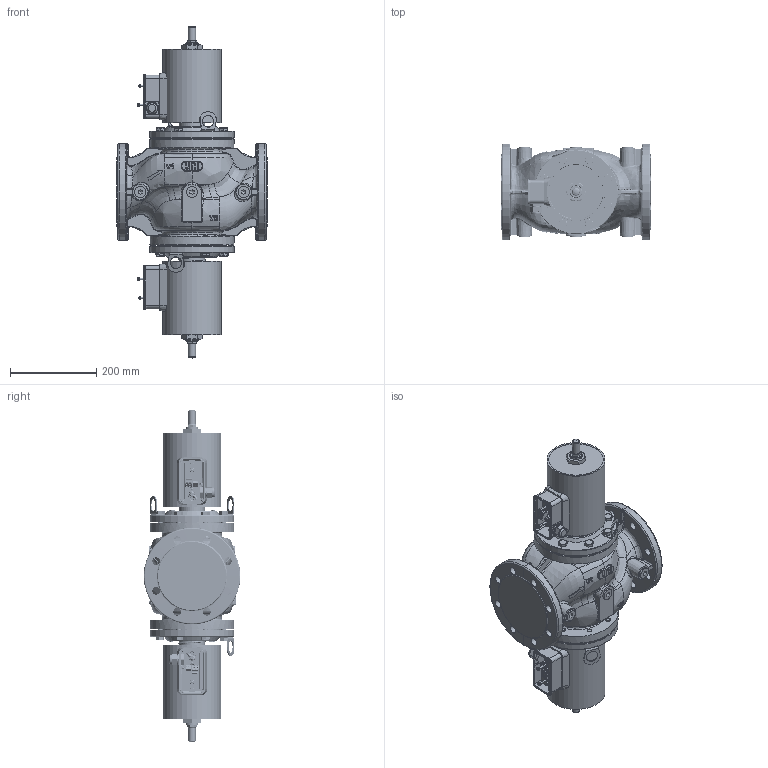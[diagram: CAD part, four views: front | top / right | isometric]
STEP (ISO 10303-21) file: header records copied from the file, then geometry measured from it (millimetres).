
FILE_DESCRIPTION((''),'2;1');
FILE_NAME('G:\CAD-Download\VX\VX 100\VX100 (Kabelverschr.).stp','2011-06-06T13:58:46',('bp'),(''),'Autodesk Inventor 2008','Autodesk Inventor 2008','');
FILE_SCHEMA(('AUTOMOTIVE_DESIGN { 1 0 10303 214 1 1 1 1 }'));
Length unit declared in the file: millimetre
Products named in the file (1): Bauteil2
Bounding box: 350 x 224 x 770.01 mm (x, y, z)
Volume: 16628411.7 mm3; surface area: 1367176.6 mm2
Topology: 2 solids, 6 shells, 4649 faces, 12352 edges, 7948 vertices
Faces by surface type: plane 2275, bspline 1087, cylinder 658, cone 452, torus 167, sphere 10
Full cylindrical faces by diameter (mm): 1.2 x4, 1.6 x4, 2.3 x4, 3.5 x4, 3.6 x4, 3.683 x2, 4.11 x8, 4.521 x2, 4.6 x4, 5 x12, 5.029 x2, 5.207 x2, 5.3 x4, 6 x4, 6.6 x2, 7 x2, 7.4 x4, 7.6 x2, 8 x2, 8.536 x2, 9 x2, 10 x6, 10.106 x1, 11 x2, 12 x23, 13 x1, 15 x1, 16.63 x16, 17 x2, 18 x8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
Entity records: 324772 total; most frequent: CARTESIAN_POINT 215927, ORIENTED_EDGE 23470, DIRECTION 18174, EDGE_CURVE 11735, VERTEX_POINT 7754, AXIS2_PLACEMENT_3D 6302, VECTOR 5570, LINE 5570
